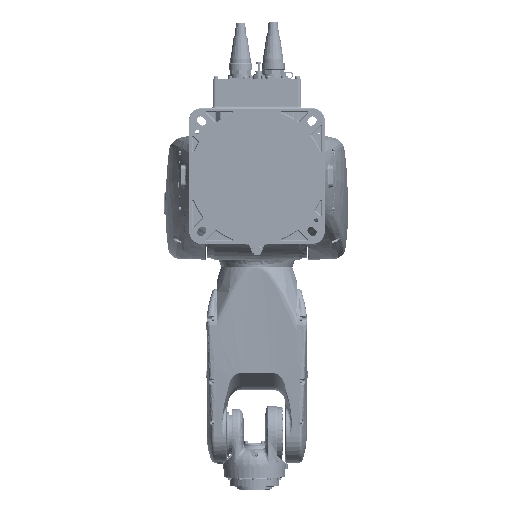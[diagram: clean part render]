
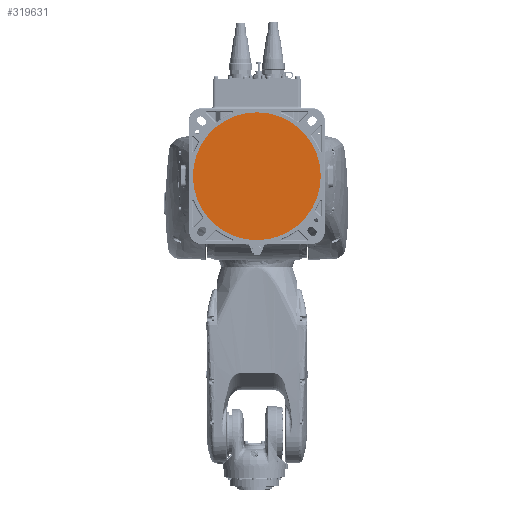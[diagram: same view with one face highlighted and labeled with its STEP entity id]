
A CAD part, front view. The second image highlights one B-rep face of the part: STEP entity #319631.
In plain terms, the highlighted planar face has unit normal (0, -1, 0) as drawn and (-1, 0, 0) by its records, which use the part's own axes.
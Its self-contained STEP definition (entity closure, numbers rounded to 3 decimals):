
#10331 = CARTESIAN_POINT ( 'NONE',  ( 0., 0., 94.1 ) ) ;
#12684 = VERTEX_POINT ( 'NONE', #233130 ) ;
#60341 = FACE_OUTER_BOUND ( 'NONE', #102743, .T. ) ;
#66211 = CARTESIAN_POINT ( 'NONE',  ( 0., 100., 0. ) ) ;
#76601 = CARTESIAN_POINT ( 'NONE',  ( 0., 0., 0. ) ) ;
#80488 = DIRECTION ( 'NONE',  ( 0., 0., -1. ) ) ;
#102743 = EDGE_LOOP ( 'NONE', ( #300721, #135435 ) ) ;
#112859 = CIRCLE ( 'NONE', #334890, 94.1 ) ;
#135435 = ORIENTED_EDGE ( 'NONE', *, *, #307537, .T. ) ;
#141948 = CARTESIAN_POINT ( 'NONE',  ( 0., 0., 0. ) ) ;
#183052 = DIRECTION ( 'NONE',  ( 0., 0., -1. ) ) ;
#187304 = EDGE_CURVE ( 'NONE', #12684, #349891, #363236, .T. ) ;
#233130 = CARTESIAN_POINT ( 'NONE',  ( 0., 0., -94.1 ) ) ;
#245060 = PLANE ( 'NONE',  #382642 ) ;
#272917 = DIRECTION ( 'NONE',  ( 0., 1., 0. ) ) ;
#286981 = AXIS2_PLACEMENT_3D ( 'NONE', #76601, #322866, #80488 ) ;
#300721 = ORIENTED_EDGE ( 'NONE', *, *, #187304, .T. ) ;
#307537 = EDGE_CURVE ( 'NONE', #349891, #12684, #112859, .T. ) ;
#319631 = ADVANCED_FACE ( 'NONE', ( #60341 ), #245060, .F. ) ;
#322866 = DIRECTION ( 'NONE',  ( -1., 0., 0. ) ) ;
#334890 = AXIS2_PLACEMENT_3D ( 'NONE', #141948, #363804, #183052 ) ;
#349891 = VERTEX_POINT ( 'NONE', #10331 ) ;
#363236 = CIRCLE ( 'NONE', #286981, 94.1 ) ;
#363804 = DIRECTION ( 'NONE',  ( -1., 0., 0. ) ) ;
#382642 = AXIS2_PLACEMENT_3D ( 'NONE', #66211, #390134, #272917 ) ;
#390134 = DIRECTION ( 'NONE',  ( 1., 0., 0. ) ) ;
